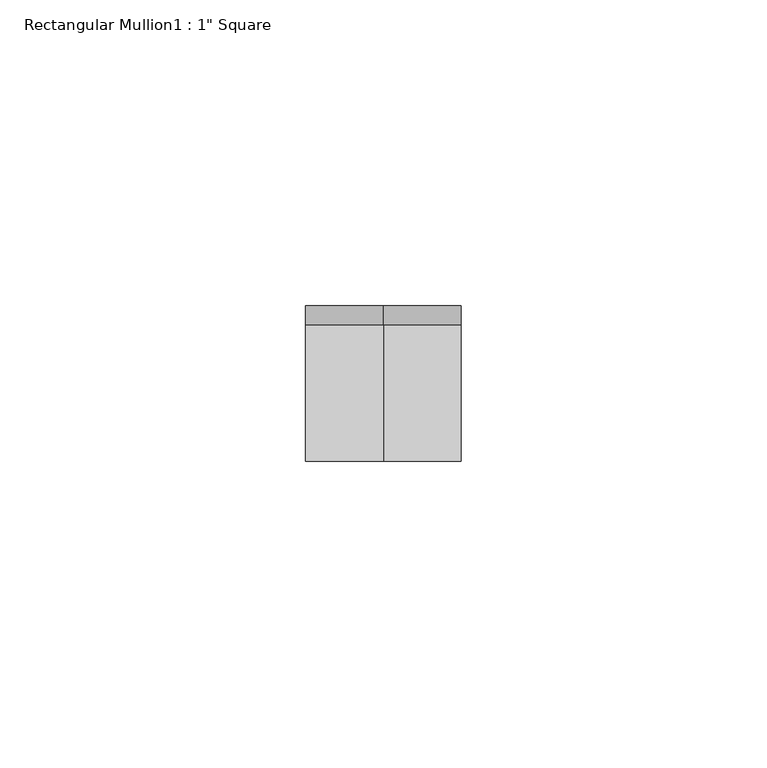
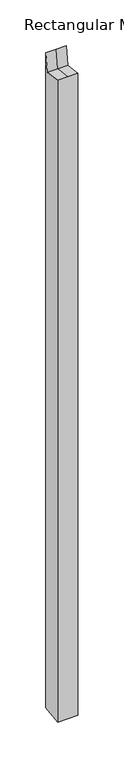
"""IFC4 building model written with IfcOpenShell, lengths in millimetres: member geometry."""

from ifc_helpers import new_model, si_unit, origin, place, context, project, spatial, faceted_brep, source, transform, mapped, element, save


def member_ea1833a9(model_context):
    return source(origin(), model_context, "Body", "Brep", [
        faceted_brep([(-12.7, -19.05, 26.6368207), (0.0, -19.05, 26.6368207), (12.7, -19.05, 26.6368207), (12.7, -19.05, -843.2621003), (-12.7, -19.05, -843.2621003), (-12.7, -44.45, 5.5812214), (-12.7, -22.1744172, 2.6764941), (-12.7, -44.45, -846.5742504), (12.7, -44.45, 5.5812214), (0.0, -44.45, 5.5812214), (12.7, -44.45, -846.5742504), (12.7, -22.1744172, 2.6764941), (0.0, -22.1744172, 2.6764941)], [[[0, 1, 2, 3, 4]], [[5, 6, 0, 4, 7]], [[8, 9, 5, 7, 10]], [[2, 11, 8, 10, 3]], [[2, 1, 12, 11]], [[1, 0, 6, 12]], [[6, 5, 9, 12]], [[9, 8, 11, 12]], [[3, 10, 7, 4]]]),
    ])


if __name__ == "__main__":
    model = new_model("IFC4")
    model_context = context("Model", 3, world=origin())
    ifc_project = project(units=[si_unit("LENGTHUNIT", "METRE", prefix="MILLI")], contexts=[model_context])
    site = spatial("IfcSite", under=ifc_project)
    building = spatial("IfcBuilding", under=site)
    placement = place(None, origin())
    member_shape = member_ea1833a9(model_context)
    element("IfcMember", 1, ObjectType="Rectangular Mullion1 : 1\" Square", at=placement, inside=building, context=model_context, shape_type="MappedRepresentation", body=[
        mapped(member_shape, transform((0.0, 0.0, 0.0), x_axis=(1.0, 0.0, 0.0), y_axis=(0.0, 1.0, 0.0), z_axis=(0.0, 0.0, 1.0))),
    ])
    save(model, "model.ifc")
